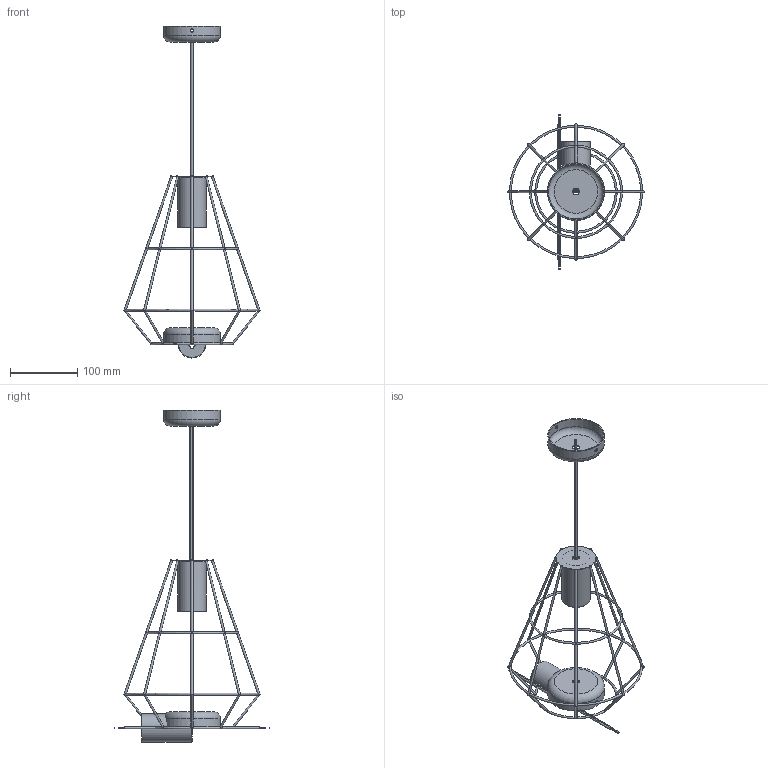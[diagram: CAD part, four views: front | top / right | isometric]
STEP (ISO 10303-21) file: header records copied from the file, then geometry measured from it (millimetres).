
FILE_DESCRIPTION( ( 'STEP AP203' ), '1' );
FILE_NAME( '//srvbf/BF Disegni/DIAMOND/DIAMOND-S 3D.stp', '2020-10-22T07:51:46', ( ' ' ), ( ' ' ), 'XStep 1.0', ' ', ' ' );
FILE_SCHEMA( ( 'CONFIG_CONTROL_DESIGN) ( )' ) );
Length unit declared in the file: metre
Products named in the file (5): Assem1; 1; 2; 3; 4
Bounding box: 203.38 x 230 x 495 mm (x, y, z)
Volume: 103676.4 mm3; surface area: 170870.2 mm2
Topology: 8 solids, 8 shells, 192 faces, 546 edges, 326 vertices
Faces by surface type: cylinder 108, plane 56, torus 28
Full cylindrical faces by diameter (mm): 1 x8, 1.5 x8, 3 x48, 5 x4, 10 x4, 41 x2, 42 x2, 82 x2, 85 x2
Entity records: 5002 total; most frequent: CARTESIAN_POINT 2665, DIRECTION 414, ORIENTED_EDGE 392, AXIS2_PLACEMENT_3D 201, EDGE_CURVE 196, EDGE_LOOP 182, FACE_OUTER_BOUND 146, VERTEX_POINT 140
